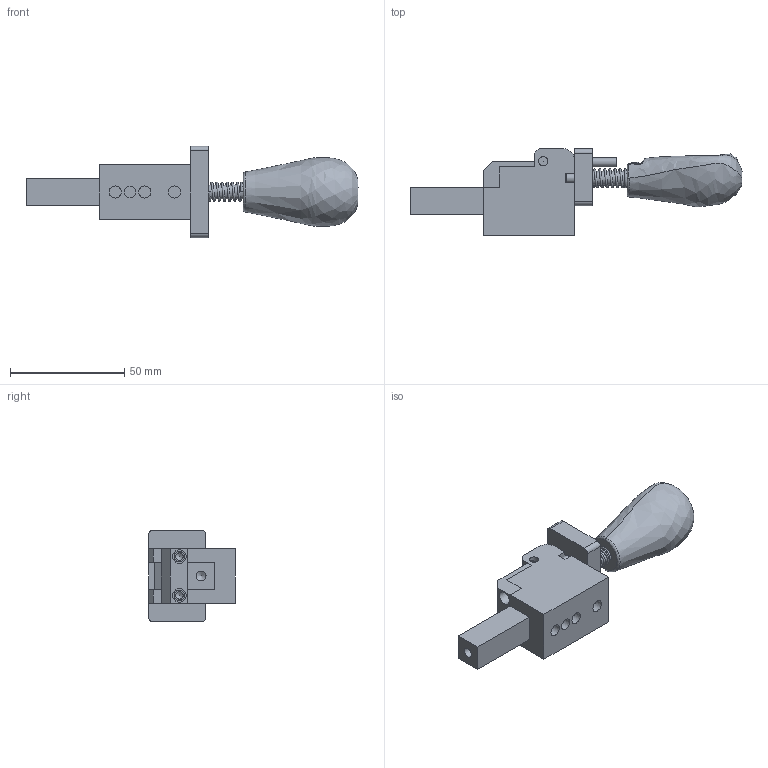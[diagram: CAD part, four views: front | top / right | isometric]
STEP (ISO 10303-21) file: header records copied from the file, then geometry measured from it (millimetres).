
FILE_DESCRIPTION(/* description */ (''),/* implementation_level */ '2;1');
FILE_NAME(/* name */ '\\192.168.1.150\pc03\Inventor\デュアルメカニズムクランプ最終\2017.10月　最新型\KCP-22ST\KCP-22ST-CLAMP.stp',/* time_stamp */ '2024-05-14T15:50:34+09:00',/* author */ ('Backup'),/* organization */ (''),/* preprocessor_version */ 'ST-DEVELOPER v17',/* originating_system */ 'Autodesk Inventor 2019',/* authorisation */ '');
FILE_SCHEMA (('AUTOMOTIVE_DESIGN { 1 0 10303 214 3 1 1 }'));
Length unit declared in the file: millimetre
Products named in the file (11): KCP-22ST-CLAMP; ブロックカバー; ロックブロック; 50-30_VER4_PG2__12; Φ8×40ｼｬﾌﾄ; カムφ25; スプリング; スライドバー　□12; φ4×25; φ4×25_1; ボディ
Assembly tree (11 placements, depth 2):
  KCP-22ST-CLAMP
    ブロックカバー
    ロックブロック
    50-30_VER4_PG2__12
    Φ8×40ｼｬﾌﾄ
    カムφ25
    スプリング
    スライドバー　□12
    φ4×25
    φ4×25_1  x2
    ボディ
Bounding box: 145.25 x 38 x 40 mm (x, y, z)
Volume: 59768.2 mm3; surface area: 26628.7 mm2
Topology: 11 solids, 11 shells, 250 faces, 671 edges, 448 vertices
Faces by surface type: plane 132, cylinder 80, bspline 25, cone 9, sphere 4
Full cylindrical faces by diameter (mm): 0.01 x3, 1.306 x1, 3 x2, 3.2 x7, 4 x8, 4.2 x1, 4.3 x1, 4.5 x2, 5.1 x1, 5.3 x3, 6 x5, 6.2 x1
Entity records: 19222 total; most frequent: CARTESIAN_POINT 12573, ORIENTED_EDGE 1320, DIRECTION 1275, EDGE_CURVE 660, VERTEX_POINT 445, AXIS2_PLACEMENT_3D 444, LINE 387, VECTOR 387
